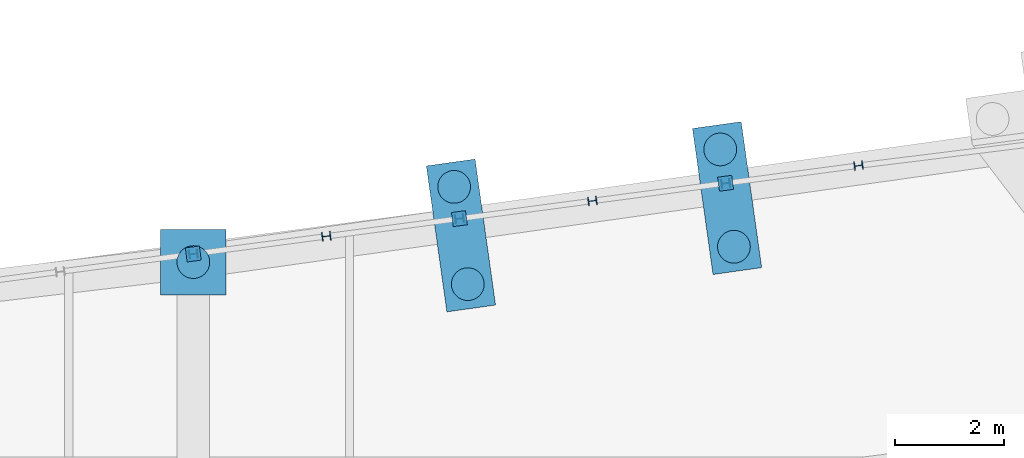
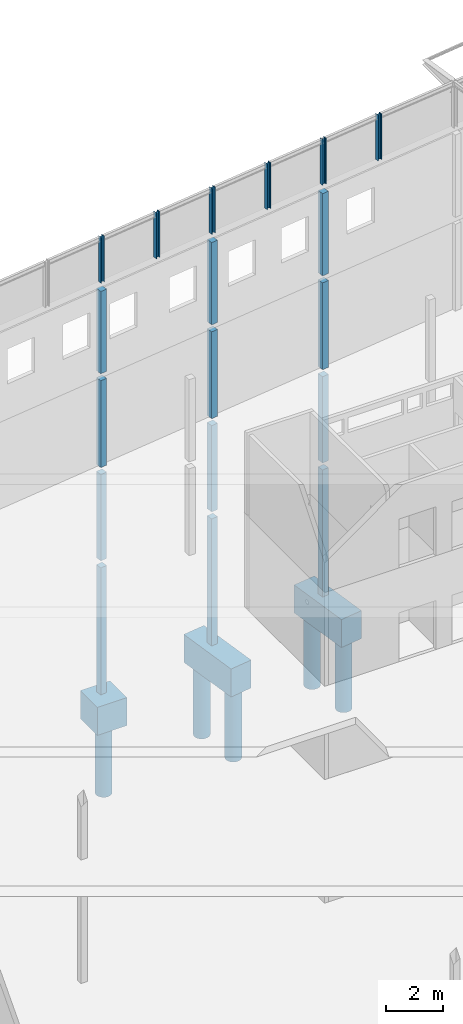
# One storey, part 53 of 82: 26 columns.
"""IFC2X3 building model written with IfcOpenShell, lengths in millimetres."""

import ifcopenshell
import ifcopenshell.guid

model = None  # the IFC model being written
_history = None  # IfcOwnerHistory: only IFC2X3 demands one
_inside = {}  # id of a spatial element -> (the spatial element, [elements in it])
_under = {}  # id of a project, library or spatial element -> (it, [spatial elements below it])
_declared = {}  # id of a project -> (the project, [libraries it declares])
_typed = {}  # id of a type object -> (the type object, [elements of that type])
_made_of = {}  # id of a material, layer set ... -> (it, [elements and type objects made of it])


def new_model(schema):
    """Start an empty IFC model of exactly this schema.

    Asked for "IFC4X3", IfcOpenShell would pick the latest addendum, in which some entities
    have other attributes; the version numbers below select the first issue.
    IFC2X3 requires an IfcOwnerHistory on every rooted entity: one is made here for all.
    """
    global model, _history
    if schema == "IFC4X3":
        model = ifcopenshell.file(schema_version=(4, 3, 0, 0))
    else:
        model = ifcopenshell.file(schema=schema)
    _inside.clear()
    _under.clear()
    _declared.clear()
    _typed.clear()
    _made_of.clear()
    _history = None
    if model.schema == "IFC2X3":
        org = make("IfcOrganization", Name="unknown")
        user = make(
            "IfcPersonAndOrganization",
            ThePerson=make("IfcPerson", FamilyName="unknown"),
            TheOrganization=org,
        )
        app = make(
            "IfcApplication",
            ApplicationDeveloper=org,
            Version="unknown",
            ApplicationFullName="unknown",
            ApplicationIdentifier="unknown",
        )
        _history = make(
            "IfcOwnerHistory",
            OwningUser=user,
            OwningApplication=app,
            ChangeAction="ADDED",
            CreationDate=0,
        )
    return model


def make(cls, **values):
    """One entity of the class cls with the attributes given. An attribute that is None is left unset."""
    return model.create_entity(
        cls, **{name: value for name, value in values.items() if value is not None}
    )


def rooted(cls, **values):
    """An entity with a GlobalId (a new one), such as an element, a storey or a relation."""
    return make(cls, GlobalId=ifcopenshell.guid.new(), OwnerHistory=_history, **values)


def si_unit(unit_type, name, prefix=None):
    """IfcSIUnit, for example si_unit("LENGTHUNIT", "METRE", prefix="MILLI")."""
    return make("IfcSIUnit", UnitType=unit_type, Prefix=prefix, Name=name)


def assignment(units):
    """IfcUnitAssignment: the units of a project."""
    return None if units is None else make("IfcUnitAssignment", Units=units)


def point(xyz):
    """IfcCartesianPoint."""
    return None if xyz is None else make("IfcCartesianPoint", Coordinates=xyz)


def direction(xyz):
    """IfcDirection."""
    return None if xyz is None else make("IfcDirection", DirectionRatios=xyz)


def frame(location, z_axis=None, x_axis=None):
    """IfcAxis2Placement3D, a coordinate frame: its origin and axes. An axis left out is left unset."""
    return make(
        "IfcAxis2Placement3D",
        Location=point(location),
        Axis=direction(z_axis),
        RefDirection=direction(x_axis),
    )


def frame_2d(location, x_axis=None):
    """IfcAxis2Placement2D, a coordinate frame in the plane: its origin and x axis."""
    return make(
        "IfcAxis2Placement2D", Location=point(location), RefDirection=direction(x_axis)
    )


def origin_with_axes():
    """The frame at (0, 0, 0) with the z axis (0, 0, 1) and the x axis (1, 0, 0) written out."""
    return frame((0.0, 0.0, 0.0), z_axis=(0.0, 0.0, 1.0), x_axis=(1.0, 0.0, 0.0))


def place(relative_to, where):
    """IfcLocalPlacement: puts the frame where relative to a parent placement (None: the world)."""
    return make(
        "IfcLocalPlacement", PlacementRelTo=relative_to, RelativePlacement=where
    )


def context(
    kind, dimensions, precision=None, world=None, true_north=None, identifier=None
):
    """IfcGeometricRepresentationContext, for example the 3D "Model" context."""
    return make(
        "IfcGeometricRepresentationContext",
        ContextIdentifier=identifier,
        ContextType=kind,
        CoordinateSpaceDimension=dimensions,
        Precision=precision,
        WorldCoordinateSystem=world,
        TrueNorth=true_north,
    )


def subcontext(parent, identifier, kind, view, scale=None):
    """IfcGeometricRepresentationSubContext, for example "Body" below "Model"."""
    return make(
        "IfcGeometricRepresentationSubContext",
        ContextIdentifier=identifier,
        ContextType=kind,
        ParentContext=parent,
        TargetScale=scale,
        TargetView=view,
    )


def project(units=None, contexts=None):
    """IfcProject with its units and contexts."""
    return rooted(
        "IfcProject",
        Name="project",
        RepresentationContexts=contexts,
        UnitsInContext=assignment(units),
    )


def spatial(cls, under=None, at=None, **own):
    """A site, building, storey or space (cls), placed at a placement, below another one or the project."""
    s = rooted(cls, ObjectPlacement=at, **own)
    if under is not None:
        _under.setdefault(under.id(), (under, []))[1].append(s)
    return s


def profile(cls, at=None, kind="AREA", **sizes):
    """A parametric profile (cls). Its sizes go by their IFC names, for example OverallWidth=200.0."""
    return make(cls, ProfileType=kind, Position=at, **sizes)


def rectangle(**sizes):
    """IfcRectangleProfileDef."""
    return profile("IfcRectangleProfileDef", **sizes)


def circle(**sizes):
    """IfcCircleProfileDef."""
    return profile("IfcCircleProfileDef", **sizes)


def i_section(**sizes):
    """IfcIShapeProfileDef."""
    return profile("IfcIShapeProfileDef", **sizes)


def extrude(swept, where, along, depth):
    """IfcExtrudedAreaSolid: the profile swept, set in the frame where, extruded along a direction by depth."""
    return make(
        "IfcExtrudedAreaSolid",
        SweptArea=swept,
        Position=where,
        ExtrudedDirection=direction(along),
        Depth=depth,
    )


def shape(context_of_items, identifier, shape_type, items):
    """IfcShapeRepresentation: the items that make up one representation, for example the "Body"."""
    return make(
        "IfcShapeRepresentation",
        ContextOfItems=context_of_items,
        RepresentationIdentifier=identifier,
        RepresentationType=shape_type,
        Items=items,
    )


def material(Name=None, Category=None):
    """IfcMaterial."""
    return make("IfcMaterial", Name=Name, Category=Category)


def made_of(thing, what):
    """Note that an element or type object is made of a material, layer set ...; save() writes the relation."""
    if what is not None:
        _made_of.setdefault(what.id(), (what, []))[1].append(thing)
    return thing


def type_object(cls, material=None, **own):
    """A type object (cls), such as IfcWallType, which elements share."""
    return made_of(rooted(cls, **own), material)


def element(
    cls,
    number,
    at=None,
    inside=None,
    cuts=None,
    type_object=None,
    material=None,
    context=None,
    identifier="Body",
    shape_type=None,
    held_by="IfcProductDefinitionShape",
    body=None,
    shapes=None,
    **own,
):
    """One element of the class cls, such as IfcWall. Its Tag is "e" and its number.

    at: its placement. inside: the storey or other place that contains it. cuts: it is an
    opening in that element (IfcRelVoidsElement). A single representation is given by context,
    identifier, shape_type and body (its items); several are given by shapes. held_by: the class
    of the entity that holds the representations. save() writes the other relations.
    """
    e = rooted(cls, Tag="e%d" % number, ObjectPlacement=at, **own)
    if body is not None:
        shapes = [shape(context, identifier, shape_type, body)]
    if shapes is not None:
        e.Representation = make(held_by, Representations=shapes)
    if inside is not None:
        _inside.setdefault(inside.id(), (inside, []))[1].append(e)
    if cuts is not None:
        rooted(
            "IfcRelVoidsElement", RelatingBuildingElement=cuts, RelatedOpeningElement=e
        )
    if type_object is not None:
        _typed.setdefault(type_object.id(), (type_object, []))[1].append(e)
    return made_of(e, material)


def aggregate(whole, parts):
    """IfcRelAggregates: a whole, such as a stair, and the parts it consists of."""
    return rooted("IfcRelAggregates", RelatingObject=whole, RelatedObjects=parts)


def save(model, path):
    """Write the relations noted so far, then the file.

    IfcRelAggregates (storeys below a building ...), IfcRelContainedInSpatialStructure (elements
    in a storey), IfcRelDefinesByType, IfcRelAssociatesMaterial and IfcRelDeclares: one each for
    every whole, place, type object, material and project.
    """
    for whole, parts in _under.values():
        aggregate(whole, parts)
    for where, things in _inside.values():
        rooted(
            "IfcRelContainedInSpatialStructure",
            RelatedElements=things,
            RelatingStructure=where,
        )
    for kind, things in _typed.values():
        rooted("IfcRelDefinesByType", RelatedObjects=things, RelatingType=kind)
    for what, things in _made_of.values():
        rooted("IfcRelAssociatesMaterial", RelatedObjects=things, RelatingMaterial=what)
    for by, libraries in _declared.values():
        rooted("IfcRelDeclares", RelatingContext=by, RelatedDefinitions=libraries)
    model.write(path)


model = new_model("IFC2X3")

# Units and contexts
model_context = context("Model", 3, precision=1e-05, world=origin_with_axes())
body_context = subcontext(model_context, "Body", "Model", "MODEL_VIEW")
ifc_project = project(units=[si_unit("LENGTHUNIT", "METRE", prefix="MILLI"), si_unit("AREAUNIT", "SQUARE_METRE"), si_unit("VOLUMEUNIT", "CUBIC_METRE"), si_unit("MASSUNIT", "GRAM", prefix="KILO"), si_unit("TIMEUNIT", "SECOND"), si_unit("PLANEANGLEUNIT", "RADIAN"), si_unit("SOLIDANGLEUNIT", "STERADIAN"), si_unit("THERMODYNAMICTEMPERATUREUNIT", "DEGREE_CELSIUS"), si_unit("LUMINOUSINTENSITYUNIT", "LUMEN")], contexts=[model_context])

# Site, building, storey
site_placement = place(None, origin_with_axes())
site = spatial("IfcSite", under=ifc_project, at=site_placement, Name="Undefined", CompositionType="ELEMENT")
building_placement = place(site_placement, origin_with_axes())
building = spatial("IfcBuilding", under=site, at=building_placement, Name="Undefined", CompositionType="ELEMENT")
storey_placement = place(building_placement, origin_with_axes())
storey = spatial("IfcBuildingStorey", under=building, at=storey_placement, Name="Undefined", CompositionType="ELEMENT", Elevation=0.0)

# Columns
ifc_material_1 = material(Name="CONCRETE/C25/30")
column_type_1 = type_object("IfcColumnType", Name="260*260", PredefinedType="NOTDEFINED")
for number, where, z_axis, x_axis, name in (
    (1, (56849.997898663, 26135.3504453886, 13330.0), (0.0, 0.0, 1.0), (1.0, 0.0, 0.0), "POTEAU"),
    (2, (51973.7150359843, 25487.3710203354, 13330.0), (0.0, 0.0, 1.0), (1.0, 0.0, 0.0), "POTEAU"),
    (3, (47099.1434869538, 24839.6274608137, 13330.0), (0.0, 0.0, 1.0), (1.0, 0.0, 0.0), "POTEAU"),
):
    element("IfcColumn", number, at=place(storey_placement, frame(where, z_axis=z_axis, x_axis=x_axis)), inside=storey, type_object=column_type_1, material=ifc_material_1, Name=name, ObjectType="260*260", context=body_context, shape_type="SweptSolid", body=[
        extrude(rectangle(XDim=260.0, YDim=260.0, at=frame_2d((5.17284206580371e-08, 4.49290382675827e-10), x_axis=(1.0, 0.0))), frame((0.0, 0.000229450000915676, 3530.0), z_axis=(0.0, -6.50000002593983e-08, -0.999999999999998), x_axis=(-0.131726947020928, 0.991286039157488, -6.44335928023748e-08)), (0.0, 0.0, 1.0), 3530.0),
    ])
for number, where, z_axis, x_axis, name in (
    (4, (56849.997898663, 26135.3504453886, 9305.0), (0.0, 0.0, 1.0), (1.0, 0.0, 0.0), "POTEAU"),
    (5, (51973.7150359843, 25487.3710203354, 9305.0), (0.0, 0.0, 1.0), (1.0, 0.0, 0.0), "POTEAU"),
    (6, (47099.1434869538, 24839.6274608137, 9305.0), (0.0, 0.0, 1.0), (1.0, 0.0, 0.0), "POTEAU"),
):
    element("IfcColumn", number, at=place(storey_placement, frame(where, z_axis=z_axis, x_axis=x_axis)), inside=storey, type_object=column_type_1, material=ifc_material_1, Name=name, ObjectType="260*260", context=body_context, shape_type="SweptSolid", body=[
        extrude(rectangle(XDim=260.0, YDim=260.0, at=frame_2d((5.17284206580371e-08, 4.49290382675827e-10), x_axis=(1.0, 0.0))), frame((0.0, 0.000227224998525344, 3725.0), z_axis=(0.0, -6.50000002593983e-08, -0.999999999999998), x_axis=(-0.131726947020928, 0.991286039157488, -6.44335928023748e-08)), (0.0, 0.0, 1.0), 3725.0),
    ])
for number, where, z_axis, x_axis, name in (
    (7, (51973.7150359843, 25487.3710203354, 5300.0), (0.0, 0.0, 1.0), (1.0, 0.0, 0.0), "POTEAU"),
    (8, (47099.1434869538, 24839.6274608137, 5300.0), (0.0, 0.0, 1.0), (1.0, 0.0, 0.0), "POTEAU"),
    (9, (56849.9978986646, 26135.3504453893, 5300.0), (0.0, 0.0, 1.0), (1.0, 0.0, 0.0), "POTEAU"),
):
    element("IfcColumn", number, at=place(storey_placement, frame(where, z_axis=z_axis, x_axis=x_axis)), inside=storey, type_object=column_type_1, material=ifc_material_1, Name=name, ObjectType="260*260", context=body_context, shape_type="SweptSolid", body=[
        extrude(rectangle(XDim=260.0, YDim=260.0, at=frame_2d((5.17284206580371e-08, 4.49290382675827e-10), x_axis=(1.0, 0.0))), frame((0.0, 0.000229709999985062, 3705.0), z_axis=(0.0, -6.50000002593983e-08, -0.999999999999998), x_axis=(-0.131726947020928, 0.991286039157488, -6.44335928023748e-08)), (0.0, 0.0, 1.0), 3705.0),
    ])
for number, where, z_axis, x_axis, name in (
    (10, (56849.997898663, 26135.3504453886, -449.999023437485), (0.0, 0.0, 1.0), (1.0, 0.0, 0.0), "POTEAU"),
    (11, (51973.7150359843, 25487.3710203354, -449.999023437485), (0.0, 0.0, 1.0), (1.0, 0.0, 0.0), "POTEAU"),
    (12, (47099.1434869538, 24839.6274608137, -449.999023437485), (0.0, 0.0, 1.0), (1.0, 0.0, 0.0), "POTEAU"),
):
    element("IfcColumn", number, at=place(storey_placement, frame(where, z_axis=z_axis, x_axis=x_axis)), inside=storey, type_object=column_type_1, material=ifc_material_1, Name=name, ObjectType="260*260", context=body_context, shape_type="SweptSolid", body=[
        extrude(rectangle(XDim=260.0, YDim=260.0, at=frame_2d((5.17284206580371e-08, 4.49290382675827e-10), x_axis=(1.0, 0.0))), frame((0.0, 0.000228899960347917, 5449.99902343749), z_axis=(0.0, -6.50000002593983e-08, -0.999999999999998), x_axis=(-0.131726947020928, 0.991286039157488, -6.44335928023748e-08)), (0.0, 0.0, 1.0), 5450.0),
    ])
ifc_material_2 = material(Name="STEEL/S275JR")
column_type_2 = type_object("IfcColumnType", Name="HEB160", PredefinedType="NOTDEFINED")
for number, where, z_axis, x_axis, name in (
    (13, (59285.5746694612, 26459.0351872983, 17160.0), (0.0, 0.0, 1.0), (1.0, 0.0, 0.0), "POTEAU"),
    (14, (54411.0015805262, 25811.2737221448, 17160.0), (0.0, 0.0, 1.0), (1.0, 0.0, 0.0), "POTEAU"),
    (15, (51973.7150360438, 25487.392989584, 17160.0), (0.0, 0.0, 1.0), (1.0, 0.0, 0.0), "POTEAU"),
    (16, (49536.4284915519, 25163.5122570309, 17160.0), (0.0, 0.0, 1.0), (1.0, 0.0, 0.0), "POTEAU"),
    (17, (47099.1434870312, 24839.6274608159, 17160.0), (0.0, 0.0, 1.0), (1.0, 0.0, 0.0), "POTEAU"),
    (18, (56849.9999999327, 26134.1200001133, 17160.0), (0.0, 0.0, 1.0), (1.0, 0.0, 0.0), "POTEAU"),
):
    element("IfcColumn", number, at=place(storey_placement, frame(where, z_axis=z_axis, x_axis=x_axis)), inside=storey, type_object=column_type_2, material=ifc_material_2, Name=name, ObjectType="HEB160", context=body_context, shape_type="SweptSolid", body=[
        extrude(i_section(OverallWidth=160.0, OverallDepth=160.0, WebThickness=8.0, FlangeThickness=13.0, FilletRadius=15.0, at=frame_2d((5.17284206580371e-08, 4.49290382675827e-10), x_axis=(1.0, 0.0))), frame((0.0, 0.0, 1965.0), z_axis=(0.0, -6.50000002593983e-08, -0.999999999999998), x_axis=(0.131727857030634, -0.991285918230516, 0.0)), (0.0, 0.0, 1.0), 1965.0),
    ])
ifc_material_3 = material(Name="CONCRETE/C30/37")
column_type_3 = type_object("IfcColumnType", Name="1200*1200", PredefinedType="NOTDEFINED")
column_1_placement = place(storey_placement, frame((47100.0020748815, 24691.4811883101, -1650.0), z_axis=(0.0, 0.0, 1.0), x_axis=(1.0, 0.0, 0.0)))
element("IfcColumn", 19, at=column_1_placement, inside=storey, type_object=column_type_3, material=ifc_material_3, Name="SEMELLE", ObjectType="1200*1200", context=body_context, shape_type="SweptSolid", body=[
    extrude(rectangle(XDim=1200.0, YDim=1200.0, at=frame_2d((5.17284206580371e-08, 4.49290382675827e-10), x_axis=(1.0, 0.0))), frame((0.0, 0.0, 1200.0), z_axis=(0.0, -6.50000002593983e-08, -0.999999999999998), x_axis=(-1.0, 0.0, 0.0)), (0.0, 0.0, 1.0), 1200.0),
])
column_type_4 = type_object("IfcColumnType", Name="2700*900", PredefinedType="NOTDEFINED")
for number, where, z_axis, x_axis, name in (
    (20, (56877.8349954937, 25863.705573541, -1650.00000000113), (0.0, 0.0, 1.0), (1.0, 0.0, 0.0), "SEMELLE"),
    (21, (52002.8405235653, 25178.5673040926, -1650.00000000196), (0.0, 0.0, 1.0), (1.0, 0.0, 0.0), "SEMELLE"),
):
    element("IfcColumn", number, at=place(storey_placement, frame(where, z_axis=z_axis, x_axis=x_axis)), inside=storey, type_object=column_type_4, material=ifc_material_3, Name=name, ObjectType="2700*900", context=body_context, shape_type="SweptSolid", body=[
        extrude(rectangle(XDim=900.0, YDim=2700.0, at=frame_2d((5.17284206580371e-08, 4.49290382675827e-10), x_axis=(1.0, 0.0))), frame((0.0, 0.0, 1200.0), z_axis=(0.0, -6.50000002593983e-08, -0.999999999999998), x_axis=(-0.990268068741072, -0.13917310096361, 0.0)), (0.0, 0.0, 1.0), 1200.0),
    ])
column_type_5 = type_object("IfcColumnType", Name="D600", PredefinedType="NOTDEFINED")
for number, where, z_axis, x_axis in (
    (22, (56752.5747054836, 26754.9485621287, -4675.0), (0.0, 0.0, 1.0), (1.0, 0.0, 0.0)),
    (23, (57003.0862872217, 24972.4660383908, -4675.0), (0.0, 0.0, 1.0), (1.0, 0.0, 0.0)),
):
    element("IfcColumn", number, at=place(storey_placement, frame(where, z_axis=z_axis, x_axis=x_axis)), inside=storey, type_object=column_type_5, material=ifc_material_1, Name="PIEU", ObjectType="D600", context=body_context, shape_type="SweptSolid", body=[
        extrude(circle(Radius=300.0, at=frame_2d((5.17284206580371e-08, 4.49290382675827e-10), x_axis=(1.0, 0.0))), frame((0.0, 0.0, 3250.0), z_axis=(0.0, -6.50000002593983e-08, -0.999999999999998), x_axis=(0.991215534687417, 0.132256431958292, 0.0)), (0.0, 0.0, 1.0), 3250.0),
    ])
column_2_placement = place(storey_placement, frame((47099.9997108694, 24691.4777908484, -4675.0), z_axis=(0.0, 0.0, 1.0), x_axis=(1.0, 0.0, 0.0)))
element("IfcColumn", 24, at=column_2_placement, inside=storey, type_object=column_type_5, material=ifc_material_1, Name="PIEU", ObjectType="D600", context=body_context, shape_type="SweptSolid", body=[
    extrude(circle(Radius=300.0, at=frame_2d((5.17284206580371e-08, 4.49290382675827e-10), x_axis=(1.0, 0.0))), frame((0.0, 0.0, 3250.0), z_axis=(0.0, -6.50000002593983e-08, -0.999999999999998), x_axis=(-1.0, 0.0, 0.0)), (0.0, 0.0, 1.0), 3250.0),
])
for number, where, z_axis, x_axis in (
    (25, (51877.5847054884, 26069.8085621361, -4675.0), (0.0, 0.0, 1.0), (1.0, 0.0, 0.0)),
    (26, (52128.0962872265, 24287.3260383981, -4675.0), (0.0, 0.0, 1.0), (1.0, 0.0, 0.0)),
):
    element("IfcColumn", number, at=place(storey_placement, frame(where, z_axis=z_axis, x_axis=x_axis)), inside=storey, type_object=column_type_5, material=ifc_material_1, Name="PIEU", ObjectType="D600", context=body_context, shape_type="SweptSolid", body=[
        extrude(circle(Radius=300.0, at=frame_2d((5.17284206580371e-08, 4.49290382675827e-10), x_axis=(1.0, 0.0))), frame((0.0, 0.0, 3250.0), z_axis=(0.0, -6.50000002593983e-08, -0.999999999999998), x_axis=(0.991215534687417, 0.132256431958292, 0.0)), (0.0, 0.0, 1.0), 3250.0),
    ])

save(model, "model.ifc")
